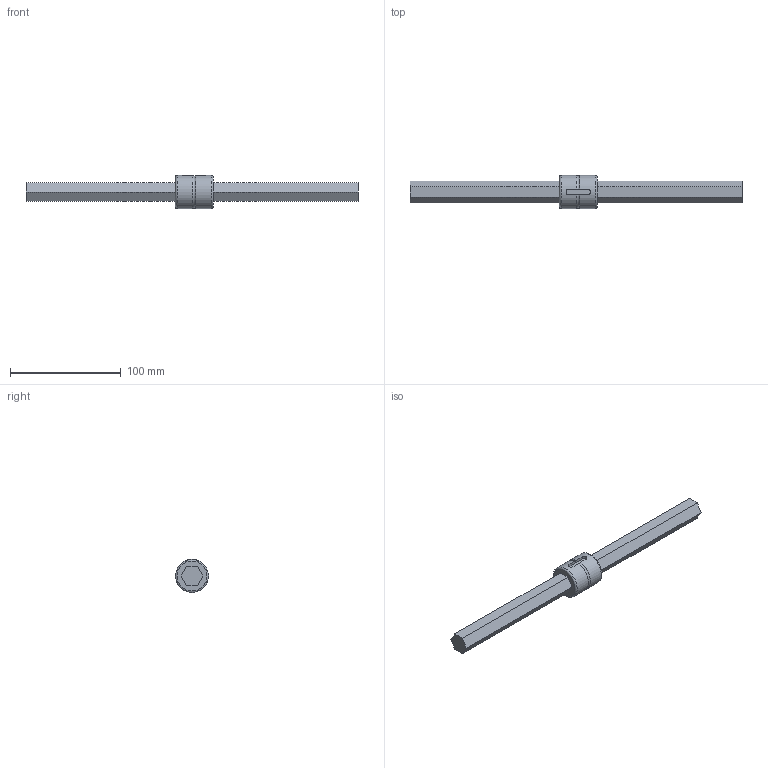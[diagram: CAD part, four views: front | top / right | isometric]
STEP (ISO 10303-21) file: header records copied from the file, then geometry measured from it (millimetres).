
FILE_DESCRIPTION((''),'2;1');
FILE_NAME('D:\製品 (図面)\カタログ用3D\ネジ関連\STEP形式\HTS\HTS17.stp','2010-06-01T16:50:20',('Tsuchiya'),(''),'Autodesk Inventor 10','Autodesk Inventor 10','');
FILE_SCHEMA(('AUTOMOTIVE_DESIGN { 1 0 10303 214 1 1 1 1 }'));
Length unit declared in the file: millimetre
Products named in the file (3): HTS17; HTS171; HTS172
Assembly tree (2 placements, depth 2):
  HTS17
    HTS171
    HTS172
Bounding box: 300 x 30 x 30 mm (x, y, z)
Volume: 89981.2 mm3; surface area: 24484.7 mm2
Topology: 2 solids, 2 shells, 36 faces, 89 edges, 59 vertices
Faces by surface type: plane 27, cylinder 6, torus 2, bspline 1
Full cylindrical faces by diameter (mm): 1.5 x1, 20.5 x1, 30 x2
Entity records: 1359 total; most frequent: CARTESIAN_POINT 460, DIRECTION 164, ORIENTED_EDGE 164, EDGE_CURVE 82, VECTOR 64, LINE 64, VERTEX_POINT 58, AXIS2_PLACEMENT_3D 50
